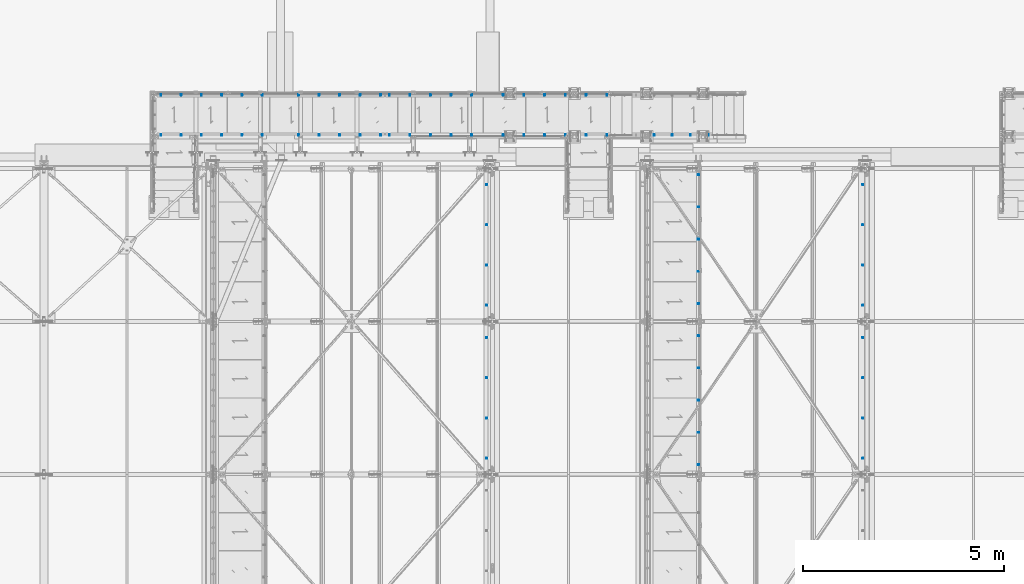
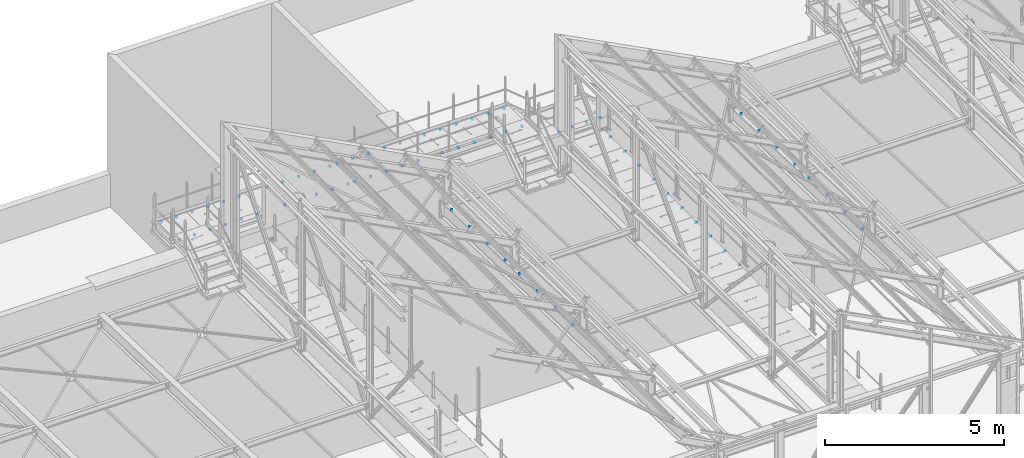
# One storey, part 136 of 362: 14 mechanical fasteners.
"""IFC2X3 building model written with IfcOpenShell, lengths in millimetres."""

from ifc_helpers import new_model, si_unit, frame, frame_2d, origin_with_axes, origin_2d_with_axis, place, context, subcontext, project, spatial, polyline, circle_curve, parameter, trimmed, segment, composite_curve, circle, outline, extrude, source, transform, mapped, material, type_object, element, save


model = new_model("IFC2X3")

# Units and contexts
model_context = context("Model", 3, precision=1e-05, world=origin_with_axes())
body_context = subcontext(model_context, "Body", "Model", "MODEL_VIEW")
ifc_project = project(units=[si_unit("LENGTHUNIT", "METRE", prefix="MILLI"), si_unit("AREAUNIT", "SQUARE_METRE"), si_unit("VOLUMEUNIT", "CUBIC_METRE"), si_unit("MASSUNIT", "GRAM", prefix="KILO"), si_unit("TIMEUNIT", "SECOND"), si_unit("PLANEANGLEUNIT", "RADIAN"), si_unit("SOLIDANGLEUNIT", "STERADIAN"), si_unit("THERMODYNAMICTEMPERATUREUNIT", "DEGREE_CELSIUS"), si_unit("LUMINOUSINTENSITYUNIT", "LUMEN")], contexts=[model_context])

# Site, building, storey
site_placement = place(None, origin_with_axes())
site = spatial("IfcSite", under=ifc_project, at=site_placement, Name="Undefined", CompositionType="ELEMENT")
building_placement = place(site_placement, origin_with_axes())
building = spatial("IfcBuilding", under=site, at=building_placement, Name="Undefined", CompositionType="ELEMENT")
storey_placement = place(building_placement, origin_with_axes())
storey = spatial("IfcBuildingStorey", under=building, at=storey_placement, Name="Undefined", CompositionType="ELEMENT", Elevation=0.0)

# Mechanical fasteners
ifc_material_1 = material(Name="8.8-SB-GALVA")
mechanical_fastener_type = type_object("IfcMechanicalFastenerType", Name="Bolt assembly")
shared_shape_1 = source(origin_with_axes(), body_context, "Body", "SweptSolid", [
    extrude(circle(Radius=7.0, at=origin_2d_with_axis()), frame((0.0, -9.89876185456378, 0.0), z_axis=(0.0, 1.0, 0.0), x_axis=(1.0, 0.0, 0.0)), (0.0, 0.0, 1.0), 10.0),
    extrude(circle(Radius=7.0, at=origin_2d_with_axis()), frame((0.0, -0.0986371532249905, 0.0), z_axis=(0.0, 1.0, 0.0), x_axis=(1.0, 0.0, 0.0)), (0.0, 0.0, 1.0), 5.1),
    extrude(outline(polyline([(10.39230484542, 0.0), (5.19615242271, 9.00000000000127), (-5.19615242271, 9.00000000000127), (-10.39230484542, 0.0), (-5.19615242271, -9.00000000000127), (5.19615242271, -9.00000000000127), (10.39230484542, 0.0)])), frame((0.0, -17.9187618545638, 0.0), z_axis=(0.0, 1.0, 0.0), x_axis=(1.0, 0.0, 0.0)), (0.0, 0.0, 1.0), 7.92),
    extrude(circle(Radius=6.0, at=origin_2d_with_axis()), frame((0.0, -9.99876185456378, 0.0), z_axis=(0.0, 1.0, 0.0), x_axis=(1.0, 0.0, 0.0)), (0.0, 0.0, 1.0), 30.0),
    extrude(outline(polyline([(11.5008173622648, 0.0), (5.7504086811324, 9.96000000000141), (-5.7504086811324, 9.96000000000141), (-11.5008173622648, 0.0), (-5.7504086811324, -9.96000000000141), (5.7504086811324, -9.96000000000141), (11.5008173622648, 0.0)])), frame((0.0, 5.00136284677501, 0.0), z_axis=(0.0, 1.0, 0.0), x_axis=(1.0, 0.0, 0.0)), (0.0, 0.0, 1.0), 7.92),
])
mechanical_fastener_1_placement = place(storey_placement, frame((12644.9999943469, 17030.0001227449, 8640.0), z_axis=(1.0, 0.0, 0.0), x_axis=(0.0, 0.0, 1.0)))
element("IfcMechanicalFastener", 1, at=mechanical_fastener_1_placement, inside=storey, type_object=mechanical_fastener_type, material=ifc_material_1, Name="Bolt assembly", NominalDiameter=12.0, NominalLength=30.0, context=body_context, shape_type="MappedRepresentation", body=[
    mapped(shared_shape_1, transform((0.0, 0.0, 1260.0))),
    mapped(shared_shape_1, transform((0.0, 0.0, 756.0))),
    mapped(shared_shape_1, transform((0.0, 0.0, 252.0))),
    mapped(shared_shape_1, transform((0.0, 0.0, -252.0))),
    mapped(shared_shape_1, transform((0.0, 0.0, -756.0))),
    mapped(shared_shape_1, transform((0.0, 0.0, -1260.0))),
])
shared_shape_2 = source(origin_with_axes(), body_context, "Body", "SweptSolid", [
    extrude(circle(Radius=7.0, at=origin_2d_with_axis()), frame((0.0, -9.89603460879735, 0.0), z_axis=(0.0, 1.0, 0.0), x_axis=(1.0, 0.0, 0.0)), (0.0, 0.0, 1.0), 10.0),
    extrude(circle(Radius=7.0, at=origin_2d_with_axis()), frame((0.0, -0.0971083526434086, 0.0), z_axis=(0.0, 1.0, 0.0), x_axis=(1.0, 0.0, 0.0)), (0.0, 0.0, 1.0), 5.1),
    extrude(outline(polyline([(10.39230484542, 0.0), (5.19615242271, 9.00000000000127), (-5.19615242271, 9.00000000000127), (-10.39230484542, 0.0), (-5.19615242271, -9.00000000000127), (5.19615242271, -9.00000000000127), (10.39230484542, 0.0)])), frame((0.0, -17.9160346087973, 0.0), z_axis=(0.0, 1.0, 0.0), x_axis=(1.0, 0.0, 0.0)), (0.0, 0.0, 1.0), 7.92),
    extrude(circle(Radius=6.0, at=origin_2d_with_axis()), frame((0.0, -9.99603460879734, 0.0), z_axis=(0.0, 1.0, 0.0), x_axis=(1.0, 0.0, 0.0)), (0.0, 0.0, 1.0), 30.0),
    extrude(outline(polyline([(11.5008173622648, 0.0), (5.7504086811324, 9.96000000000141), (-5.7504086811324, 9.96000000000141), (-11.5008173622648, 0.0), (-5.7504086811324, -9.96000000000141), (5.7504086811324, -9.96000000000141), (11.5008173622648, 0.0)])), frame((0.0, 5.00289164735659, 0.0), z_axis=(0.0, 1.0, 0.0), x_axis=(1.0, 0.0, 0.0)), (0.0, 0.0, 1.0), 7.92),
])
mechanical_fastener_2_placement = place(storey_placement, frame((15825.0011134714, 17030.0001227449, 8640.0), z_axis=(1.0, 0.0, 0.0), x_axis=(0.0, 0.0, 1.0)))
element("IfcMechanicalFastener", 2, at=mechanical_fastener_2_placement, inside=storey, type_object=mechanical_fastener_type, material=ifc_material_1, Name="Bolt assembly", NominalDiameter=12.0, NominalLength=30.0, context=body_context, shape_type="MappedRepresentation", body=[
    mapped(shared_shape_2, transform((0.0, 0.0, 1020.0))),
    mapped(shared_shape_2, transform((0.0, 0.0, 510.0))),
    mapped(shared_shape_2, transform((0.0, 0.0, 0.0))),
    mapped(shared_shape_2, transform((0.0, 0.0, -510.0))),
    mapped(shared_shape_2, transform((0.0, 0.0, -1020.0))),
])
shared_shape_3 = source(origin_with_axes(), body_context, "Body", "SweptSolid", [
    extrude(circle(Radius=7.0, at=origin_2d_with_axis()), frame((0.0, -9.89876185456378, 0.0), z_axis=(0.0, 1.0, 0.0), x_axis=(1.0, 0.0, 0.0)), (0.0, 0.0, 1.0), 10.0),
    extrude(circle(Radius=7.0, at=origin_2d_with_axis()), frame((0.0, -0.095682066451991, 0.0), z_axis=(0.0, 1.0, 0.0), x_axis=(1.0, 0.0, 0.0)), (0.0, 0.0, 1.0), 5.1),
    extrude(outline(polyline([(10.39230484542, 0.0), (5.19615242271, 9.00000000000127), (-5.19615242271, 9.00000000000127), (-10.39230484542, 0.0), (-5.19615242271, -9.00000000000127), (5.19615242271, -9.00000000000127), (10.39230484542, 0.0)])), frame((0.0, -17.9187618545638, 0.0), z_axis=(0.0, 1.0, 0.0), x_axis=(1.0, 0.0, 0.0)), (0.0, 0.0, 1.0), 7.92),
    extrude(circle(Radius=6.0, at=origin_2d_with_axis()), frame((0.0, -9.99876185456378, 0.0), z_axis=(0.0, 1.0, 0.0), x_axis=(1.0, 0.0, 0.0)), (0.0, 0.0, 1.0), 30.0),
    extrude(outline(polyline([(11.5008173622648, 0.0), (5.7504086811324, 9.96000000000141), (-5.7504086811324, 9.96000000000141), (-11.5008173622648, 0.0), (-5.7504086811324, -9.96000000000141), (5.7504086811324, -9.96000000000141), (11.5008173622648, 0.0)])), frame((0.0, 5.00431793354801, 0.0), z_axis=(0.0, 1.0, 0.0), x_axis=(1.0, 0.0, 0.0)), (0.0, 0.0, 1.0), 7.92),
])
mechanical_fastener_3_placement = place(storey_placement, frame((18085.0001157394, 17030.0001227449, 8640.0), z_axis=(1.0, 0.0, 0.0), x_axis=(0.0, 0.0, 1.0)))
element("IfcMechanicalFastener", 3, at=mechanical_fastener_3_placement, inside=storey, type_object=mechanical_fastener_type, material=ifc_material_1, Name="Bolt assembly", NominalDiameter=12.0, NominalLength=30.0, context=body_context, shape_type="MappedRepresentation", body=[
    mapped(shared_shape_3, transform((0.0, 0.0, 1020.0))),
    mapped(shared_shape_3, transform((0.0, 0.0, 510.0))),
    mapped(shared_shape_3, transform((0.0, 0.0, 0.0))),
    mapped(shared_shape_3, transform((0.0, 0.0, -510.0))),
    mapped(shared_shape_3, transform((0.0, 0.0, -1020.0))),
])
shared_shape_4 = source(origin_with_axes(), body_context, "Body", "SweptSolid", [
    extrude(circle(Radius=7.0, at=origin_2d_with_axis()), frame((0.0, -9.90286756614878, 0.0), z_axis=(0.0, 1.0, 0.0), x_axis=(1.0, 0.0, 0.0)), (0.0, 0.0, 1.0), 10.0),
    extrude(circle(Radius=7.0, at=origin_2d_with_axis()), frame((0.0, -0.10007666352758, 0.0), z_axis=(0.0, 1.0, 0.0), x_axis=(1.0, 0.0, 0.0)), (0.0, 0.0, 1.0), 5.1),
    extrude(outline(polyline([(10.39230484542, 0.0), (5.19615242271, 9.00000000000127), (-5.19615242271, 9.00000000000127), (-10.39230484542, 0.0), (-5.19615242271, -9.00000000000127), (5.19615242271, -9.00000000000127), (10.39230484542, 0.0)])), frame((0.0, -17.9228675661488, 0.0), z_axis=(0.0, 1.0, 0.0), x_axis=(1.0, 0.0, 0.0)), (0.0, 0.0, 1.0), 7.92),
    extrude(circle(Radius=6.0, at=origin_2d_with_axis()), frame((0.0, -10.0028675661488, 0.0), z_axis=(0.0, 1.0, 0.0), x_axis=(1.0, 0.0, 0.0)), (0.0, 0.0, 1.0), 30.0),
    extrude(outline(polyline([(11.5008173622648, 0.0), (5.7504086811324, 9.96000000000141), (-5.7504086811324, 9.96000000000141), (-11.5008173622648, 0.0), (-5.7504086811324, -9.96000000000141), (5.7504086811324, -9.96000000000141), (11.5008173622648, 0.0)])), frame((0.0, 4.99993643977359, 0.0), z_axis=(0.0, 1.0, 0.0), x_axis=(1.0, 0.0, 0.0)), (0.0, 0.0, 1.0), 7.92),
])
mechanical_fastener_4_placement = place(storey_placement, frame((21177.4999994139, 17029.9935807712, 8640.0), z_axis=(1.0, 0.0, 0.0), x_axis=(0.0, 0.0, 1.0)))
element("IfcMechanicalFastener", 4, at=mechanical_fastener_4_placement, inside=storey, type_object=mechanical_fastener_type, material=ifc_material_1, Name="Bolt assembly", NominalDiameter=12.0, NominalLength=30.0, context=body_context, shape_type="MappedRepresentation", body=[
    mapped(shared_shape_4, transform((0.0, 0.0, 1287.5))),
    mapped(shared_shape_4, transform((0.0, 0.0, 772.5))),
    mapped(shared_shape_4, transform((0.0, 0.0, 257.5))),
    mapped(shared_shape_4, transform((0.0, 0.0, -257.5))),
    mapped(shared_shape_4, transform((0.0, 0.0, -772.5))),
    mapped(shared_shape_4, transform((0.0, 0.0, -1287.5))),
])
mechanical_fastener_5_placement = place(storey_placement, frame((21177.4999994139, 16030.0064192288, 8640.0), z_axis=(-1.0, 0.0, 0.0), x_axis=(0.0, 0.0, 1.0)))
element("IfcMechanicalFastener", 5, at=mechanical_fastener_5_placement, inside=storey, type_object=mechanical_fastener_type, material=ifc_material_1, Name="Bolt assembly", NominalDiameter=12.0, NominalLength=30.0, context=body_context, shape_type="MappedRepresentation", body=[
    mapped(shared_shape_4, transform((0.0, 0.0, -1287.5))),
    mapped(shared_shape_4, transform((0.0, 0.0, -772.5))),
    mapped(shared_shape_4, transform((0.0, 0.0, -257.5))),
    mapped(shared_shape_4, transform((0.0, 0.0, 257.5))),
    mapped(shared_shape_4, transform((0.0, 0.0, 772.5))),
    mapped(shared_shape_4, transform((0.0, 0.0, 1287.5))),
])
shared_shape_5 = source(origin_with_axes(), body_context, "Body", "SweptSolid", [
    extrude(circle(Radius=7.0, at=origin_2d_with_axis()), frame((0.0, -9.9008370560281, 0.0), z_axis=(0.0, 1.0, 0.0), x_axis=(1.0, 0.0, 0.0)), (0.0, 0.0, 1.0), 10.0),
    extrude(circle(Radius=7.0, at=origin_2d_with_axis()), frame((0.0, -0.0986371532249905, 0.0), z_axis=(0.0, 1.0, 0.0), x_axis=(1.0, 0.0, 0.0)), (0.0, 0.0, 1.0), 5.1),
    extrude(outline(polyline([(10.39230484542, 0.0), (5.19615242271, 9.00000000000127), (-5.19615242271, 9.00000000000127), (-10.39230484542, 0.0), (-5.19615242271, -9.00000000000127), (5.19615242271, -9.00000000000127), (10.39230484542, 0.0)])), frame((0.0, -17.9208370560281, 0.0), z_axis=(0.0, 1.0, 0.0), x_axis=(1.0, 0.0, 0.0)), (0.0, 0.0, 1.0), 7.92),
    extrude(circle(Radius=6.0, at=origin_2d_with_axis()), frame((0.0, -10.0008370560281, 0.0), z_axis=(0.0, 1.0, 0.0), x_axis=(1.0, 0.0, 0.0)), (0.0, 0.0, 1.0), 30.0),
    extrude(outline(polyline([(11.5008173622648, 0.0), (5.7504086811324, 9.96000000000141), (-5.7504086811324, 9.96000000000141), (-11.5008173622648, 0.0), (-5.7504086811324, -9.96000000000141), (5.7504086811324, -9.96000000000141), (11.5008173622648, 0.0)])), frame((0.0, 5.00136284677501, 0.0), z_axis=(0.0, 1.0, 0.0), x_axis=(1.0, 0.0, 0.0)), (0.0, 0.0, 1.0), 7.92),
])
mechanical_fastener_6_placement = place(storey_placement, frame((12644.9999943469, 16029.9998772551, 8640.0), z_axis=(-1.0, 0.0, 0.0), x_axis=(0.0, 0.0, 1.0)))
element("IfcMechanicalFastener", 6, at=mechanical_fastener_6_placement, inside=storey, type_object=mechanical_fastener_type, material=ifc_material_1, Name="Bolt assembly", NominalDiameter=12.0, NominalLength=30.0, context=body_context, shape_type="MappedRepresentation", body=[
    mapped(shared_shape_5, transform((0.0, 0.0, -1260.0))),
    mapped(shared_shape_5, transform((0.0, 0.0, -756.0))),
    mapped(shared_shape_5, transform((0.0, 0.0, -252.0))),
    mapped(shared_shape_5, transform((0.0, 0.0, 252.0))),
    mapped(shared_shape_5, transform((0.0, 0.0, 756.0))),
    mapped(shared_shape_5, transform((0.0, 0.0, 1260.0))),
])
shared_shape_6 = source(origin_with_axes(), body_context, "Body", "SweptSolid", [
    extrude(circle(Radius=7.0, at=origin_2d_with_axis()), frame((0.0, -9.90049171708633, 0.0), z_axis=(0.0, 1.0, 0.0), x_axis=(1.0, 0.0, 0.0)), (0.0, 0.0, 1.0), 10.0),
    extrude(circle(Radius=7.0, at=origin_2d_with_axis()), frame((0.0, -0.0971083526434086, 0.0), z_axis=(0.0, 1.0, 0.0), x_axis=(1.0, 0.0, 0.0)), (0.0, 0.0, 1.0), 5.1),
    extrude(outline(polyline([(10.39230484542, 0.0), (5.19615242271, 9.00000000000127), (-5.19615242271, 9.00000000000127), (-10.39230484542, 0.0), (-5.19615242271, -9.00000000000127), (5.19615242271, -9.00000000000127), (10.39230484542, 0.0)])), frame((0.0, -17.9204917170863, 0.0), z_axis=(0.0, 1.0, 0.0), x_axis=(1.0, 0.0, 0.0)), (0.0, 0.0, 1.0), 7.92),
    extrude(circle(Radius=6.0, at=origin_2d_with_axis()), frame((0.0, -10.0004917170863, 0.0), z_axis=(0.0, 1.0, 0.0), x_axis=(1.0, 0.0, 0.0)), (0.0, 0.0, 1.0), 30.0),
    extrude(outline(polyline([(11.5008173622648, 0.0), (5.7504086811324, 9.96000000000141), (-5.7504086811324, 9.96000000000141), (-11.5008173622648, 0.0), (-5.7504086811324, -9.96000000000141), (5.7504086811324, -9.96000000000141), (11.5008173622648, 0.0)])), frame((0.0, 5.00289164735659, 0.0), z_axis=(0.0, 1.0, 0.0), x_axis=(1.0, 0.0, 0.0)), (0.0, 0.0, 1.0), 7.92),
])
mechanical_fastener_7_placement = place(storey_placement, frame((15825.0011134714, 16029.9998772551, 8640.0), z_axis=(-1.0, 0.0, 0.0), x_axis=(0.0, 0.0, 1.0)))
element("IfcMechanicalFastener", 7, at=mechanical_fastener_7_placement, inside=storey, type_object=mechanical_fastener_type, material=ifc_material_1, Name="Bolt assembly", NominalDiameter=12.0, NominalLength=30.0, context=body_context, shape_type="MappedRepresentation", body=[
    mapped(shared_shape_6, transform((0.0, 0.0, -1020.0))),
    mapped(shared_shape_6, transform((0.0, 0.0, -510.0))),
    mapped(shared_shape_6, transform((0.0, 0.0, 0.0))),
    mapped(shared_shape_6, transform((0.0, 0.0, 510.0))),
    mapped(shared_shape_6, transform((0.0, 0.0, 1020.0))),
])
shared_shape_7 = source(origin_with_axes(), body_context, "Body", "SweptSolid", [
    extrude(circle(Radius=7.0, at=origin_2d_with_axis()), frame((0.0, -9.90092170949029, 0.0), z_axis=(0.0, 1.0, 0.0), x_axis=(1.0, 0.0, 0.0)), (0.0, 0.0, 1.0), 10.0),
    extrude(circle(Radius=7.0, at=origin_2d_with_axis()), frame((0.0, -0.095682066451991, 0.0), z_axis=(0.0, 1.0, 0.0), x_axis=(1.0, 0.0, 0.0)), (0.0, 0.0, 1.0), 5.1),
    extrude(outline(polyline([(10.39230484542, 0.0), (5.19615242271, 9.00000000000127), (-5.19615242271, 9.00000000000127), (-10.39230484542, 0.0), (-5.19615242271, -9.00000000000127), (5.19615242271, -9.00000000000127), (10.39230484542, 0.0)])), frame((0.0, -17.9209217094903, 0.0), z_axis=(0.0, 1.0, 0.0), x_axis=(1.0, 0.0, 0.0)), (0.0, 0.0, 1.0), 7.92),
    extrude(circle(Radius=6.0, at=origin_2d_with_axis()), frame((0.0, -10.0009217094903, 0.0), z_axis=(0.0, 1.0, 0.0), x_axis=(1.0, 0.0, 0.0)), (0.0, 0.0, 1.0), 30.0),
    extrude(outline(polyline([(11.5008173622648, 0.0), (5.7504086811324, 9.96000000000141), (-5.7504086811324, 9.96000000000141), (-11.5008173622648, 0.0), (-5.7504086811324, -9.96000000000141), (5.7504086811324, -9.96000000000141), (11.5008173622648, 0.0)])), frame((0.0, 5.00431793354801, 0.0), z_axis=(0.0, 1.0, 0.0), x_axis=(1.0, 0.0, 0.0)), (0.0, 0.0, 1.0), 7.92),
])
mechanical_fastener_8_placement = place(storey_placement, frame((18085.0001157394, 16029.9998772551, 8640.0), z_axis=(-1.0, 0.0, 0.0), x_axis=(0.0, 0.0, 1.0)))
element("IfcMechanicalFastener", 8, at=mechanical_fastener_8_placement, inside=storey, type_object=mechanical_fastener_type, material=ifc_material_1, Name="Bolt assembly", NominalDiameter=12.0, NominalLength=30.0, context=body_context, shape_type="MappedRepresentation", body=[
    mapped(shared_shape_7, transform((0.0, 0.0, -1020.0))),
    mapped(shared_shape_7, transform((0.0, 0.0, -510.0))),
    mapped(shared_shape_7, transform((0.0, 0.0, 0.0))),
    mapped(shared_shape_7, transform((0.0, 0.0, 510.0))),
    mapped(shared_shape_7, transform((0.0, 0.0, 1020.0))),
])
shared_shape_8 = source(origin_with_axes(), body_context, "Body", "SweptSolid", [
    extrude(circle(Radius=7.0, at=origin_2d_with_axis()), frame((0.0, -9.9, 0.0), z_axis=(0.0, 1.0, 0.0), x_axis=(1.0, 0.0, 0.0)), (0.0, 0.0, 1.0), 10.0),
    extrude(circle(Radius=7.0, at=origin_2d_with_axis()), frame((0.0, -0.100011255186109, 0.0), z_axis=(0.0, 1.0, 0.0), x_axis=(1.0, 0.0, 0.0)), (0.0, 0.0, 1.0), 5.1),
    extrude(outline(polyline([(10.39230484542, 0.0), (5.19615242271, 9.00000000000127), (-5.19615242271, 9.00000000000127), (-10.39230484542, 0.0), (-5.19615242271, -9.00000000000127), (5.19615242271, -9.00000000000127), (10.39230484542, 0.0)])), frame((0.0, -17.92, 0.0), z_axis=(0.0, 1.0, 0.0), x_axis=(1.0, 0.0, 0.0)), (0.0, 0.0, 1.0), 7.92),
    extrude(circle(Radius=6.0, at=origin_2d_with_axis()), frame((0.0, -10.0000010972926, 0.0), z_axis=(0.0, 1.0, 0.0), x_axis=(1.0, 0.0, 0.0)), (0.0, 0.0, 1.0), 30.0),
    extrude(outline(polyline([(11.5008173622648, 0.0), (5.7504086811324, 9.96000000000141), (-5.7504086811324, 9.96000000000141), (-11.5008173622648, 0.0), (-5.7504086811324, -9.96000000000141), (5.7504086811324, -9.96000000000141), (11.5008173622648, 0.0)])), frame((0.0, 5.0, 0.0), z_axis=(0.0, 1.0, 0.0), x_axis=(1.0, 0.0, 0.0)), (0.0, 0.0, 1.0), 7.92),
])
mechanical_fastener_9_placement = place(storey_placement, frame((24314.9999902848, 16029.9998772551, 8049.9999407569), z_axis=(-1.0, 0.0, 0.0), x_axis=(0.0, 0.0, 1.0)))
element("IfcMechanicalFastener", 9, at=mechanical_fastener_9_placement, inside=storey, type_object=mechanical_fastener_type, material=ifc_material_1, Name="Bolt assembly", NominalDiameter=12.0, NominalLength=30.0, context=body_context, shape_type="MappedRepresentation", body=[
    mapped(shared_shape_8, transform((0.0, 0.0, -675.0))),
    mapped(shared_shape_8, transform((0.0, 0.0, -225.0))),
    mapped(shared_shape_8, transform((0.0, 0.0, 225.0))),
    mapped(shared_shape_8, transform((0.0, 0.0, 675.0))),
])
ifc_material_2 = material(Name="#_SB-8.8-ZINGUE")
shared_shape_9 = source(origin_with_axes(), body_context, "Body", "SweptSolid", [
    extrude(circle(Radius=7.0, at=origin_2d_with_axis()), frame((0.0, -0.100011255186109, 0.0), z_axis=(0.0, 1.0, 0.0), x_axis=(1.0, 0.0, 0.0)), (0.0, 0.0, 1.0), 17.3),
    extrude(outline(composite_curve([segment(polyline([(-7.0, 7.0), (7.0, 7.0)]), True, "CONTINUOUS"), segment(trimmed(circle_curve(frame_2d((7.0, 0.0), x_axis=(0.0, 1.0)), 7.0), [parameter(0.0)], [parameter(3.14159265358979)], False, "PARAMETER"), True, "CONTINUOUS"), segment(polyline([(7.0, -7.0), (-7.0, -7.0)]), True, "CONTINUOUS"), segment(trimmed(circle_curve(frame_2d((-7.0, 0.0), x_axis=(0.0, -1.0)), 7.0), [parameter(0.0)], [parameter(3.14159265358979)], False, "PARAMETER"), True, "DISCONTINUOUS")], self_intersect=False)), frame((0.0, -1.90048839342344, 0.0), z_axis=(0.0, 1.0, 0.0), x_axis=(1.0, 0.0, 0.0)), (0.0, 0.0, 1.0), 2.0),
    extrude(outline(polyline([(10.39230484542, 0.0), (5.19615242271, 9.00000000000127), (-5.19615242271, 9.00000000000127), (-10.39230484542, 0.0), (-5.19615242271, -9.00000000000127), (5.19615242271, -9.00000000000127), (10.39230484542, 0.0)])), frame((0.0, -13.8804883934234, 0.0), z_axis=(0.0, 1.0, 0.0), x_axis=(1.0, 0.0, 0.0)), (0.0, 0.0, 1.0), 7.92),
    extrude(circle(Radius=6.0, at=origin_2d_with_axis()), frame((0.0, -5.96048839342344, 0.0), z_axis=(0.0, 1.0, 0.0), x_axis=(1.0, 0.0, 0.0)), (0.0, 0.0, 1.0), 40.0),
    extrude(circle(Radius=10.8, at=origin_2d_with_axis()), frame((0.0, -5.96048839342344, 0.0), z_axis=(0.0, 1.0, 0.0), x_axis=(1.0, 0.0, 0.0)), (0.0, 0.0, 1.0), 3.96),
    extrude(outline(polyline([(11.5008173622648, 0.0), (5.7504086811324, 9.96000000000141), (-5.7504086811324, 9.96000000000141), (-11.5008173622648, 0.0), (-5.7504086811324, -9.96000000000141), (5.7504086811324, -9.96000000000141), (11.5008173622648, 0.0)])), frame((0.0, 17.2000007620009, 0.0), z_axis=(0.0, 1.0, 0.0), x_axis=(1.0, 0.0, 0.0)), (0.0, 0.0, 1.0), 7.92),
])
mechanical_fastener_10_placement = place(storey_placement, frame((28825.0, 9499.68555315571, 7751.46035511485), z_axis=(0.0, -0.999506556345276, 0.031410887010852), x_axis=(-1.0, 0.0, 0.0)))
element("IfcMechanicalFastener", 10, at=mechanical_fastener_10_placement, inside=storey, type_object=mechanical_fastener_type, material=ifc_material_2, Name="Bolt assembly", NominalDiameter=12.0, NominalLength=40.0, context=body_context, shape_type="MappedRepresentation", body=[
    mapped(shared_shape_9, transform((0.0, 6.70297595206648e-10, -1499.99999999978))),
    mapped(shared_shape_9, transform((0.0, 2.2373569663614e-10, -499.999999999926))),
    mapped(shared_shape_9, transform((0.0, -2.2373569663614e-10, 499.999999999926))),
    mapped(shared_shape_9, transform((0.0, -6.71207089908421e-10, 1499.99999999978))),
])
shared_shape_10 = source(origin_with_axes(), body_context, "Body", "SweptSolid", [
    extrude(circle(Radius=7.0, at=origin_2d_with_axis()), frame((0.0, -0.100011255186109, 0.0), z_axis=(0.0, 1.0, 0.0), x_axis=(1.0, 0.0, 0.0)), (0.0, 0.0, 1.0), 17.3),
    extrude(outline(composite_curve([segment(polyline([(-7.0, 7.0), (7.0, 7.0)]), True, "CONTINUOUS"), segment(trimmed(circle_curve(frame_2d((7.0, 0.0), x_axis=(0.0, 1.0)), 7.0), [parameter(0.0)], [parameter(3.14159265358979)], False, "PARAMETER"), True, "CONTINUOUS"), segment(polyline([(7.0, -7.0), (-7.0, -7.0)]), True, "CONTINUOUS"), segment(trimmed(circle_curve(frame_2d((-7.0, 0.0), x_axis=(0.0, -1.0)), 7.0), [parameter(0.0)], [parameter(3.14159265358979)], False, "PARAMETER"), True, "DISCONTINUOUS")], self_intersect=False)), frame((0.0, -1.90000109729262, 0.0), z_axis=(0.0, 1.0, 0.0), x_axis=(1.0, 0.0, 0.0)), (0.0, 0.0, 1.0), 2.0),
    extrude(outline(polyline([(10.39230484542, 0.0), (5.19615242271, 9.00000000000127), (-5.19615242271, 9.00000000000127), (-10.39230484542, 0.0), (-5.19615242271, -9.00000000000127), (5.19615242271, -9.00000000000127), (10.39230484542, 0.0)])), frame((0.0, -13.8800244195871, 0.0), z_axis=(0.0, 1.0, 0.0), x_axis=(1.0, 0.0, 0.0)), (0.0, 0.0, 1.0), 7.92),
    extrude(circle(Radius=6.0, at=origin_2d_with_axis()), frame((0.0, -5.96002441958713, 0.0), z_axis=(0.0, 1.0, 0.0), x_axis=(1.0, 0.0, 0.0)), (0.0, 0.0, 1.0), 40.0),
    extrude(circle(Radius=10.8, at=origin_2d_with_axis()), frame((0.0, -5.96002441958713, 0.0), z_axis=(0.0, 1.0, 0.0), x_axis=(1.0, 0.0, 0.0)), (0.0, 0.0, 1.0), 3.96),
    extrude(outline(polyline([(11.5008173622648, 0.0), (5.7504086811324, 9.96000000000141), (-5.7504086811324, 9.96000000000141), (-11.5008173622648, 0.0), (-5.7504086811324, -9.96000000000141), (5.7504086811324, -9.96000000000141), (11.5008173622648, 0.0)])), frame((0.0, 17.2000007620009, 0.0), z_axis=(0.0, 1.0, 0.0), x_axis=(1.0, 0.0, 0.0)), (0.0, 0.0, 1.0), 7.92),
])
mechanical_fastener_11_placement = place(storey_placement, frame((28825.0, 13299.6855676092, 7632.04054394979), z_axis=(0.0, -0.999506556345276, 0.031410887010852), x_axis=(-1.0, 0.0, 0.0)))
element("IfcMechanicalFastener", 11, at=mechanical_fastener_11_placement, inside=storey, type_object=mechanical_fastener_type, material=ifc_material_2, Name="Bolt assembly", NominalDiameter=12.0, NominalLength=40.0, context=body_context, shape_type="MappedRepresentation", body=[
    mapped(shared_shape_10, transform((0.0, 6.70297595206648e-10, -1499.99999999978))),
    mapped(shared_shape_10, transform((0.0, 2.2373569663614e-10, -499.999999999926))),
    mapped(shared_shape_10, transform((0.0, -2.2373569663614e-10, 499.999999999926))),
    mapped(shared_shape_10, transform((0.0, -6.71207089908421e-10, 1499.99999999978))),
])
shared_shape_11 = source(origin_with_axes(), body_context, "Body", "SweptSolid", [
    extrude(circle(Radius=7.0, at=origin_2d_with_axis()), frame((0.0, -0.100011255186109, 0.0), z_axis=(0.0, 1.0, 0.0), x_axis=(1.0, 0.0, 0.0)), (0.0, 0.0, 1.0), 17.3),
    extrude(outline(composite_curve([segment(polyline([(-7.0, 7.0), (7.0, 7.0)]), True, "CONTINUOUS"), segment(trimmed(circle_curve(frame_2d((7.0, 0.0), x_axis=(0.0, 1.0)), 7.0), [parameter(0.0)], [parameter(3.14159265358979)], False, "PARAMETER"), True, "CONTINUOUS"), segment(polyline([(7.0, -7.0), (-7.0, -7.0)]), True, "CONTINUOUS"), segment(trimmed(circle_curve(frame_2d((-7.0, 0.0), x_axis=(0.0, -1.0)), 7.0), [parameter(0.0)], [parameter(3.14159265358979)], False, "PARAMETER"), True, "DISCONTINUOUS")], self_intersect=False)), frame((0.0, -1.90000109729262, 0.0), z_axis=(0.0, 1.0, 0.0), x_axis=(1.0, 0.0, 0.0)), (0.0, 0.0, 1.0), 2.0),
    extrude(outline(polyline([(10.39230484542, 0.0), (5.19615242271, 9.00000000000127), (-5.19615242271, 9.00000000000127), (-10.39230484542, 0.0), (-5.19615242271, -9.00000000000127), (5.19615242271, -9.00000000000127), (10.39230484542, 0.0)])), frame((0.0, -13.8800244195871, 0.0), z_axis=(0.0, 1.0, 0.0), x_axis=(1.0, 0.0, 0.0)), (0.0, 0.0, 1.0), 7.92),
    extrude(circle(Radius=6.0, at=origin_2d_with_axis()), frame((0.0, -5.96002441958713, 0.0), z_axis=(0.0, 1.0, 0.0), x_axis=(1.0, 0.0, 0.0)), (0.0, 0.0, 1.0), 40.0),
    extrude(circle(Radius=10.8, at=origin_2d_with_axis()), frame((0.0, -5.96002441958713, 0.0), z_axis=(0.0, 1.0, 0.0), x_axis=(1.0, 0.0, 0.0)), (0.0, 0.0, 1.0), 3.96),
    extrude(outline(polyline([(11.5008173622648, 0.0), (5.7504086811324, 9.96000000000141), (-5.7504086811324, 9.96000000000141), (-11.5008173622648, 0.0), (-5.7504086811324, -9.96000000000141), (5.7504086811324, -9.96000000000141), (11.5008173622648, 0.0)])), frame((0.0, 17.2000007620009, 0.0), z_axis=(0.0, 1.0, 0.0), x_axis=(1.0, 0.0, 0.0)), (0.0, 0.0, 1.0), 7.92),
])
mechanical_fastener_12_placement = place(storey_placement, frame((19475.0, 13299.6855676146, 7632.04054394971), z_axis=(0.0, -0.999506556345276, 0.031410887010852), x_axis=(-1.0, 0.0, 0.0)))
element("IfcMechanicalFastener", 12, at=mechanical_fastener_12_placement, inside=storey, type_object=mechanical_fastener_type, material=ifc_material_2, Name="Bolt assembly", NominalDiameter=12.0, NominalLength=40.0, context=body_context, shape_type="MappedRepresentation", body=[
    mapped(shared_shape_11, transform((0.0, 6.70297595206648e-10, -1499.99999999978))),
    mapped(shared_shape_11, transform((0.0, 2.2373569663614e-10, -499.999999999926))),
    mapped(shared_shape_11, transform((0.0, -2.2373569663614e-10, 499.999999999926))),
    mapped(shared_shape_11, transform((0.0, -6.71207089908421e-10, 1499.99999999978))),
])
shared_shape_12 = source(origin_with_axes(), body_context, "Body", "SweptSolid", [
    extrude(circle(Radius=7.0, at=origin_2d_with_axis()), frame((0.0, -0.100011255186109, 0.0), z_axis=(0.0, 1.0, 0.0), x_axis=(1.0, 0.0, 0.0)), (0.0, 0.0, 1.0), 17.3),
    extrude(outline(composite_curve([segment(polyline([(-7.0, 7.0), (7.0, 7.0)]), True, "CONTINUOUS"), segment(trimmed(circle_curve(frame_2d((7.0, 0.0), x_axis=(0.0, 1.0)), 7.0), [parameter(0.0)], [parameter(3.14159265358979)], False, "PARAMETER"), True, "CONTINUOUS"), segment(polyline([(7.0, -7.0), (-7.0, -7.0)]), True, "CONTINUOUS"), segment(trimmed(circle_curve(frame_2d((-7.0, 0.0), x_axis=(0.0, -1.0)), 7.0), [parameter(0.0)], [parameter(3.14159265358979)], False, "PARAMETER"), True, "DISCONTINUOUS")], self_intersect=False)), frame((0.0, -1.90048839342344, 0.0), z_axis=(0.0, 1.0, 0.0), x_axis=(1.0, 0.0, 0.0)), (0.0, 0.0, 1.0), 2.0),
    extrude(outline(polyline([(10.39230484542, 0.0), (5.19615242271, 9.00000000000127), (-5.19615242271, 9.00000000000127), (-10.39230484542, 0.0), (-5.19615242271, -9.00000000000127), (5.19615242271, -9.00000000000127), (10.39230484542, 0.0)])), frame((0.0, -13.8804883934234, 0.0), z_axis=(0.0, 1.0, 0.0), x_axis=(1.0, 0.0, 0.0)), (0.0, 0.0, 1.0), 7.92),
    extrude(circle(Radius=6.0, at=origin_2d_with_axis()), frame((0.0, -5.96048839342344, 0.0), z_axis=(0.0, 1.0, 0.0), x_axis=(1.0, 0.0, 0.0)), (0.0, 0.0, 1.0), 40.0),
    extrude(circle(Radius=10.8, at=origin_2d_with_axis()), frame((0.0, -5.96048839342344, 0.0), z_axis=(0.0, 1.0, 0.0), x_axis=(1.0, 0.0, 0.0)), (0.0, 0.0, 1.0), 3.96),
    extrude(outline(polyline([(11.5008173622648, 0.0), (5.7504086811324, 9.96000000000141), (-5.7504086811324, 9.96000000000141), (-11.5008173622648, 0.0), (-5.7504086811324, -9.96000000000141), (5.7504086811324, -9.96000000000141), (11.5008173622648, 0.0)])), frame((0.0, 17.2000007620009, 0.0), z_axis=(0.0, 1.0, 0.0), x_axis=(1.0, 0.0, 0.0)), (0.0, 0.0, 1.0), 7.92),
])
mechanical_fastener_13_placement = place(storey_placement, frame((19475.0, 9499.68555312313, 7751.46035511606), z_axis=(0.0, -0.999506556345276, 0.031410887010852), x_axis=(-1.0, 0.0, 0.0)))
element("IfcMechanicalFastener", 13, at=mechanical_fastener_13_placement, inside=storey, type_object=mechanical_fastener_type, material=ifc_material_2, Name="Bolt assembly", NominalDiameter=12.0, NominalLength=40.0, context=body_context, shape_type="MappedRepresentation", body=[
    mapped(shared_shape_12, transform((0.0, 6.70297595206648e-10, -1499.99999999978))),
    mapped(shared_shape_12, transform((0.0, 2.2373569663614e-10, -499.999999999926))),
    mapped(shared_shape_12, transform((0.0, -2.2373569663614e-10, 499.999999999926))),
    mapped(shared_shape_12, transform((0.0, -6.71207089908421e-10, 1499.99999999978))),
])
ifc_material_3 = material(Name="8.8-SB-ZINGUE")
shared_shape_13 = source(origin_with_axes(), body_context, "Body", "SweptSolid", [
    extrude(circle(Radius=7.0, at=origin_2d_with_axis()), frame((0.0, -5.00000000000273, 0.0), z_axis=(0.0, 1.0, 0.0), x_axis=(1.0, 0.0, 0.0)), (0.0, 0.0, 1.0), 5.1),
    extrude(outline(polyline([(10.39230484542, 0.0), (5.19615242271, 9.00000000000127), (-5.19615242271, 9.00000000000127), (-10.39230484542, 0.0), (-5.19615242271, -9.00000000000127), (5.19615242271, -9.00000000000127), (10.39230484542, 0.0)])), frame((0.0, -12.9200004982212, 0.0), z_axis=(0.0, 1.0, 0.0), x_axis=(1.0, 0.0, 0.0)), (0.0, 0.0, 1.0), 7.92),
    extrude(circle(Radius=6.0, at=origin_2d_with_axis()), frame((0.0, -5.00000000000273, 0.0), z_axis=(0.0, 1.0, 0.0), x_axis=(1.0, 0.0, 0.0)), (0.0, 0.0, 1.0), 30.0),
    extrude(outline(polyline([(11.5008173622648, 0.0), (5.7504086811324, 9.96000000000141), (-5.7504086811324, 9.96000000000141), (-11.5008173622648, 0.0), (-5.7504086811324, -9.96000000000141), (5.7504086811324, -9.96000000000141), (11.5008173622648, 0.0)])), frame((0.0, 0.0, 0.0), z_axis=(0.0, 1.0, 0.0), x_axis=(1.0, 0.0, 0.0)), (0.0, 0.0, 1.0), 7.92),
])
mechanical_fastener_14_placement = place(storey_placement, frame((24736.4916006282, 11442.5000449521, 8070.0), z_axis=(0.0, 1.0, 0.0), x_axis=(0.0, 0.0, 1.0)))
element("IfcMechanicalFastener", 14, at=mechanical_fastener_14_placement, inside=storey, type_object=mechanical_fastener_type, material=ifc_material_3, Name="Bolt assembly", NominalDiameter=12.0, NominalLength=30.0, context=body_context, shape_type="MappedRepresentation", body=[
    mapped(shared_shape_13, transform((0.0, 0.0, -3600.0))),
    mapped(shared_shape_13, transform((0.0, 0.0, -2800.0))),
    mapped(shared_shape_13, transform((0.0, 0.0, -2000.0))),
    mapped(shared_shape_13, transform((0.0, 0.0, -1200.0))),
    mapped(shared_shape_13, transform((0.0, 0.0, -400.0))),
    mapped(shared_shape_13, transform((0.0, 0.0, 400.0))),
    mapped(shared_shape_13, transform((0.0, 0.0, 1200.0))),
    mapped(shared_shape_13, transform((0.0, 0.0, 2000.0))),
    mapped(shared_shape_13, transform((0.0, 0.0, 2800.0))),
    mapped(shared_shape_13, transform((0.0, 0.0, 3600.0))),
])

save(model, "model.ifc")
